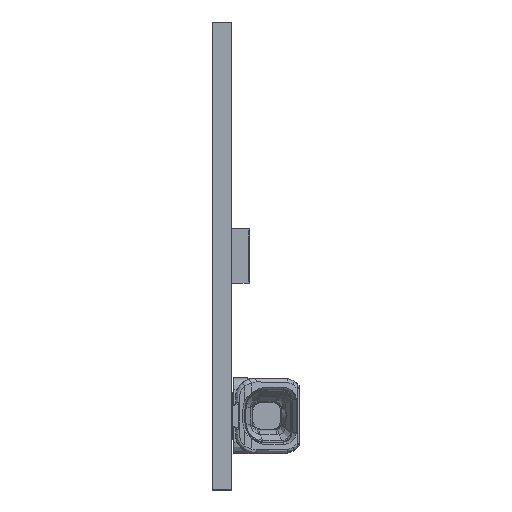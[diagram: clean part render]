
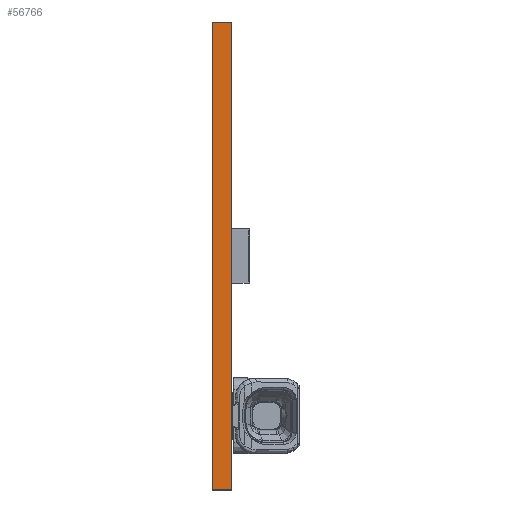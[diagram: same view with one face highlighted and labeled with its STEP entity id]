
A CAD part, left-side view. The second image highlights one B-rep face of the part: STEP entity #56766.
In plain terms, the highlighted planar face has unit normal (-1, 0, 0).
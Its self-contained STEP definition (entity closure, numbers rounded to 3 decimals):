
#676=PLANE('',#59228);
#3349=LINE('',#74389,#8968);
#3392=LINE('',#74527,#9011);
#3438=LINE('',#74640,#9057);
#3439=LINE('',#74642,#9058);
#8968=VECTOR('',#62506,1000.);
#9011=VECTOR('',#62603,1000.);
#9057=VECTOR('',#62733,1000.);
#9058=VECTOR('',#62736,1000.);
#15117=ORIENTED_EDGE('',*,*,#27270,.F.);
#15118=ORIENTED_EDGE('',*,*,#27395,.F.);
#15119=ORIENTED_EDGE('',*,*,#27339,.T.);
#15120=ORIENTED_EDGE('',*,*,#27394,.T.);
#27270=EDGE_CURVE('',#33496,#33497,#3349,.T.);
#27339=EDGE_CURVE('',#33565,#33564,#3392,.T.);
#27394=EDGE_CURVE('',#33564,#33497,#3438,.T.);
#27395=EDGE_CURVE('',#33565,#33496,#3439,.T.);
#33496=VERTEX_POINT('',#74388);
#33497=VERTEX_POINT('',#74390);
#33564=VERTEX_POINT('',#74526);
#33565=VERTEX_POINT('',#74528);
#37719=EDGE_LOOP('',(#15117,#15118,#15119,#15120));
#40425=FACE_BOUND('',#37719,.T.);
#56766=ADVANCED_FACE('',(#40425),#676,.T.);
#59228=AXIS2_PLACEMENT_3D('',#74641,#62734,#62735);
#62506=DIRECTION('',(0.,0.,-1.));
#62603=DIRECTION('',(0.,0.,-1.));
#62733=DIRECTION('',(0.,-1.,0.));
#62734=DIRECTION('',(-1.,0.,0.));
#62735=DIRECTION('',(0.,0.,1.));
#62736=DIRECTION('',(0.,-1.,0.));
#74388=CARTESIAN_POINT('',(-280.,0.,12.));
#74389=CARTESIAN_POINT('',(-280.,0.,12.));
#74390=CARTESIAN_POINT('',(-280.,0.,-12.));
#74526=CARTESIAN_POINT('',(-280.,1.,-12.));
#74527=CARTESIAN_POINT('',(-280.,1.,12.));
#74528=CARTESIAN_POINT('',(-280.,1.,12.));
#74640=CARTESIAN_POINT('',(-280.,1.,-12.));
#74641=CARTESIAN_POINT('',(-280.,1.,12.));
#74642=CARTESIAN_POINT('',(-280.,1.,12.));
